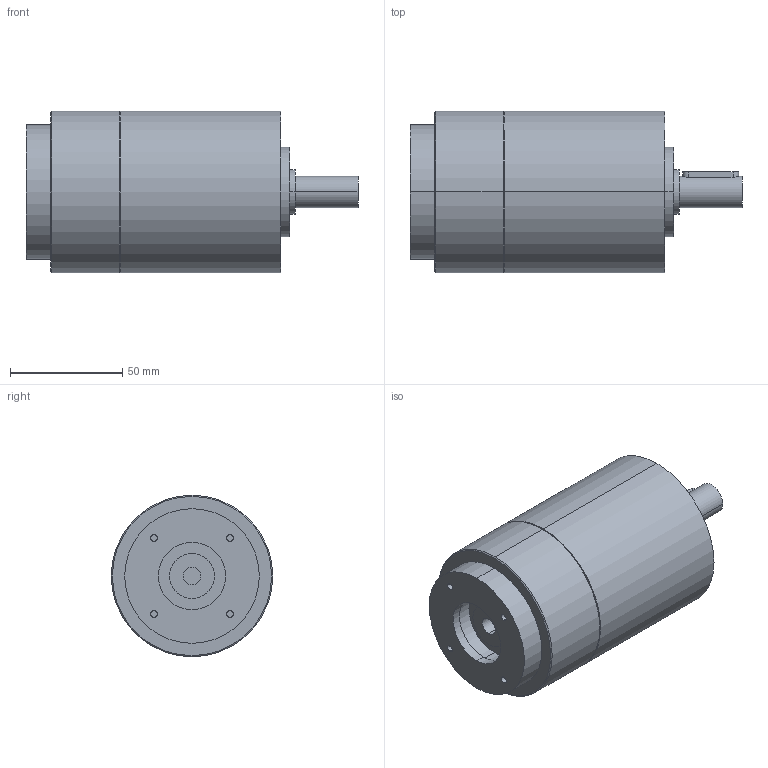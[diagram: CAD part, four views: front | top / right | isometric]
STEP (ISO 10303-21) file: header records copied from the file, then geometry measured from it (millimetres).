
FILE_DESCRIPTION(('CoCreate Modeling STEP Export'),'2;1');
FILE_NAME('GPT75_ig-9-12-16-20-25-28-35-40-50-70-100_14_B14T_8_P29.stp','2014-08-27T13:24:24',(''),(''),'CoCreate Modeling STEP processor for AP214 (Solid Model)','CoCreate Modeling 16.00C 25-Feb-2009 (C) Parametric Technology GmbH','');
FILE_SCHEMA(('AUTOMOTIVE_DESIGN { 1 0 10303 214 1 1 1 1 }'));
Length unit declared in the file: millimetre
Products named in the file (2): GPT75_ig-9-12-16-20-25-28-35-40-50-70-100_14_B14T_8_P29
Assembly tree (1 placements, depth 2):
  GPT75_ig-9-12-16-20-25-28-35-40-50-70-100_14_B14T_8_P29
    GPT75_ig-9-12-16-20-25-28-35-40-50-70-100_14_B14T_8_P29
Bounding box: 148 x 72 x 72 mm (x, y, z)
Volume: 448455.4 mm3; surface area: 39046.2 mm2
Topology: 1 solids, 1 shells, 67 faces, 149 edges, 102 vertices
Faces by surface type: cylinder 40, plane 23, cone 4
Entity records: 1948 total; most frequent: CARTESIAN_POINT 625, ORIENTED_EDGE 298, DIRECTION 220, EDGE_CURVE 149, VERTEX_POINT 102, AXIS2_PLACEMENT_3D 85, EDGE_LOOP 85, FACE_OUTER_BOUND 67
